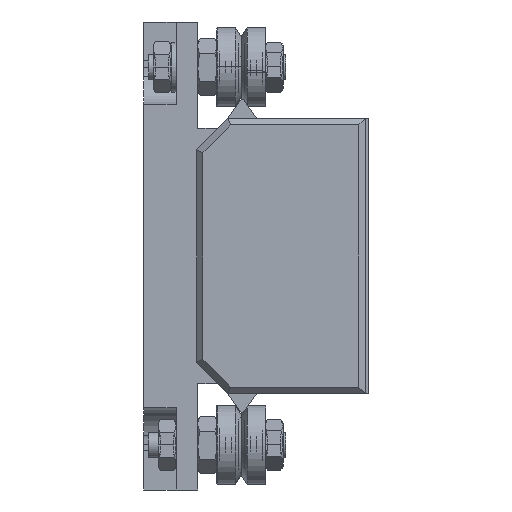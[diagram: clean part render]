
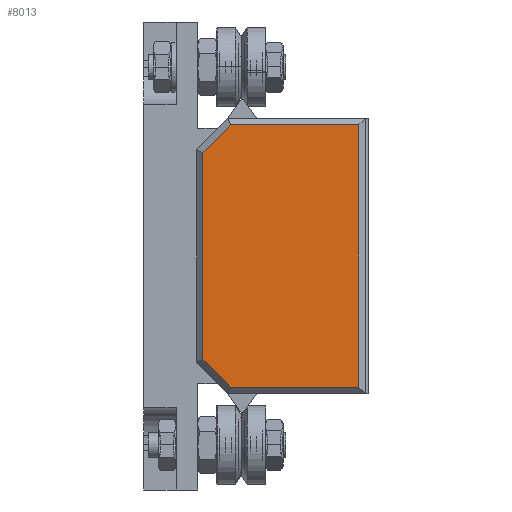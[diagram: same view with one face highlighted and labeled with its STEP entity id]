
A CAD part, left-side view. The second image highlights one B-rep face of the part: STEP entity #8013.
In plain terms, the highlighted planar face has unit normal (-1, 0, 0) as drawn and (0, 0, 1) by its records, which use the part's own axes.
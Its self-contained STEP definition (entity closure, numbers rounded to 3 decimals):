
#1 = ORIENTED_EDGE ( 'NONE', *, *, #12711, .T. ) ;
#786 = ORIENTED_EDGE ( 'NONE', *, *, #7649, .T. ) ;
#970 = ORIENTED_EDGE ( 'NONE', *, *, #5623, .T. ) ;
#1609 = EDGE_CURVE ( 'NONE', #6803, #16015, #15736, .T. ) ;
#1740 = DIRECTION ( 'NONE',  ( -0.707, 0.707, 0. ) ) ;
#2560 = VERTEX_POINT ( 'NONE', #6266 ) ;
#3029 = CARTESIAN_POINT ( 'NONE',  ( -16.586, 26., 6. ) ) ;
#3356 = DIRECTION ( 'NONE',  ( 0., 1., 0. ) ) ;
#3483 = CARTESIAN_POINT ( 'NONE',  ( 16.293, 26.293, 6. ) ) ;
#3669 = CARTESIAN_POINT ( 'NONE',  ( 0., 0., 6. ) ) ;
#3686 = LINE ( 'NONE', #9520, #17343 ) ;
#3914 = EDGE_LOOP ( 'NONE', ( #11545, #1, #970, #4016, #13828, #786 ) ) ;
#4016 = ORIENTED_EDGE ( 'NONE', *, *, #9521, .T. ) ;
#4144 = DIRECTION ( 'NONE',  ( -0.707, -0.707, 0. ) ) ;
#4321 = LINE ( 'NONE', #9894, #8137 ) ;
#4875 = VECTOR ( 'NONE', #16725, 1000. ) ;
#4997 = EDGE_CURVE ( 'NONE', #2560, #6414, #3686, .T. ) ;
#5623 = EDGE_CURVE ( 'NONE', #6722, #14062, #15842, .T. ) ;
#6266 = CARTESIAN_POINT ( 'NONE',  ( 16.586, 26., 6. ) ) ;
#6414 = VERTEX_POINT ( 'NONE', #3029 ) ;
#6722 = VERTEX_POINT ( 'NONE', #16865 ) ;
#6803 = VERTEX_POINT ( 'NONE', #11236 ) ;
#7467 = LINE ( 'NONE', #3483, #14118 ) ;
#7649 = EDGE_CURVE ( 'NONE', #6414, #6803, #4321, .T. ) ;
#7667 = DIRECTION ( 'NONE',  ( 0., 0., -1. ) ) ;
#8013 = ADVANCED_FACE ( 'NONE', ( #9065 ), #12229, .F. ) ;
#8137 = VECTOR ( 'NONE', #4144, 1000. ) ;
#9065 = FACE_OUTER_BOUND ( 'NONE', #3914, .T. ) ;
#9257 = DIRECTION ( 'NONE',  ( -1., 0., 0. ) ) ;
#9520 = CARTESIAN_POINT ( 'NONE',  ( 0., 26., 6. ) ) ;
#9521 = EDGE_CURVE ( 'NONE', #14062, #2560, #7467, .T. ) ;
#9618 = AXIS2_PLACEMENT_3D ( 'NONE', #3669, #7667, #10619 ) ;
#9894 = CARTESIAN_POINT ( 'NONE',  ( -21.293, 21.293, 6. ) ) ;
#9992 = CARTESIAN_POINT ( 'NONE',  ( -21., 0., 6. ) ) ;
#10619 = DIRECTION ( 'NONE',  ( -1., 0., 0. ) ) ;
#10884 = CARTESIAN_POINT ( 'NONE',  ( -21., 1., 6. ) ) ;
#11236 = CARTESIAN_POINT ( 'NONE',  ( -21., 21.586, 6. ) ) ;
#11545 = ORIENTED_EDGE ( 'NONE', *, *, #1609, .T. ) ;
#11611 = CARTESIAN_POINT ( 'NONE',  ( 21., 21.586, 6. ) ) ;
#12229 = PLANE ( 'NONE',  #9618 ) ;
#12698 = VECTOR ( 'NONE', #3356, 1000. ) ;
#12711 = EDGE_CURVE ( 'NONE', #16015, #6722, #12863, .T. ) ;
#12765 = VECTOR ( 'NONE', #14424, 1000. ) ;
#12863 = LINE ( 'NONE', #17056, #12765 ) ;
#13828 = ORIENTED_EDGE ( 'NONE', *, *, #4997, .T. ) ;
#14062 = VERTEX_POINT ( 'NONE', #11611 ) ;
#14118 = VECTOR ( 'NONE', #1740, 1000. ) ;
#14376 = CARTESIAN_POINT ( 'NONE',  ( 21., 0., 6. ) ) ;
#14424 = DIRECTION ( 'NONE',  ( 1., 0., 0. ) ) ;
#15736 = LINE ( 'NONE', #9992, #4875 ) ;
#15842 = LINE ( 'NONE', #14376, #12698 ) ;
#16015 = VERTEX_POINT ( 'NONE', #10884 ) ;
#16725 = DIRECTION ( 'NONE',  ( 0., -1., 0. ) ) ;
#16865 = CARTESIAN_POINT ( 'NONE',  ( 21., 1., 6. ) ) ;
#17056 = CARTESIAN_POINT ( 'NONE',  ( 0., 1., 6. ) ) ;
#17343 = VECTOR ( 'NONE', #9257, 1000. ) ;
